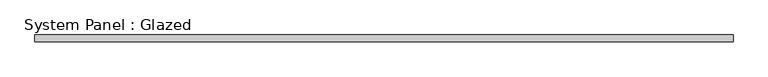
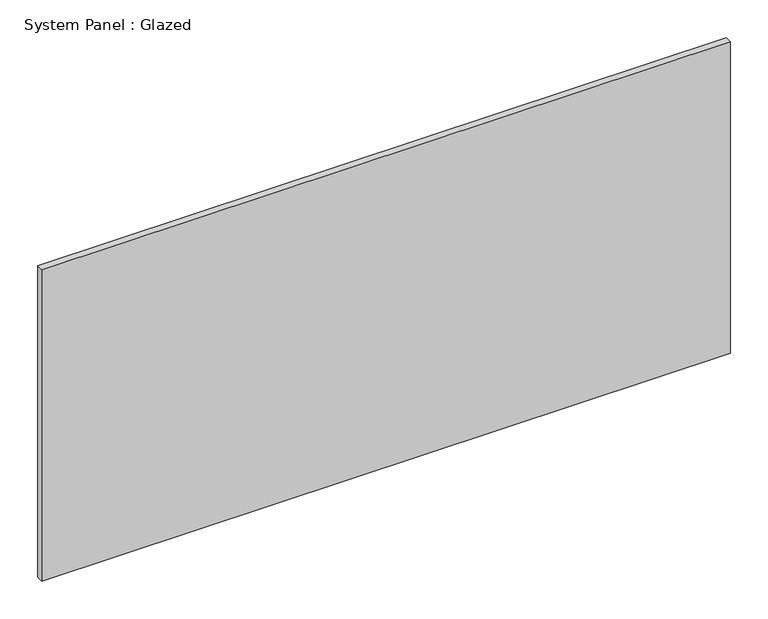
"""IFC4 building model written with IfcOpenShell, lengths in millimetres: plate geometry, System Panel : Glazed."""

from ifc_helpers import new_model, si_unit, origin, origin_with_axes, place, context, project, spatial, polyline, outline, extrude, source, transform, mapped, element, save


def system_panel_glazed_4516bcf1(model_context):
    return source(origin(), model_context, "Body", "SweptSolid", [
        extrude(outline(polyline([(526.2142184, -5.0), (-526.2142184, -5.0), (-526.2142184, 5.0), (526.2142184, 5.0), (526.2142184, -5.0)])), origin_with_axes(), (0.0, 0.0, 1.0), 503.3333333),
    ])


if __name__ == "__main__":
    model = new_model("IFC4")
    model_context = context("Model", 3, world=origin())
    ifc_project = project(units=[si_unit("LENGTHUNIT", "METRE", prefix="MILLI")], contexts=[model_context])
    site = spatial("IfcSite", under=ifc_project)
    building = spatial("IfcBuilding", under=site)
    placement = place(None, origin())
    system_panel_glazed_shape = system_panel_glazed_4516bcf1(model_context)
    element("IfcPlate", 1, ObjectType="System Panel : Glazed", at=placement, inside=building, context=model_context, shape_type="MappedRepresentation", body=[
        mapped(system_panel_glazed_shape, transform((0.0, 0.0, 0.0), x_axis=(1.0, 0.0, 0.0), y_axis=(0.0, 1.0, 0.0), z_axis=(0.0, 0.0, 1.0))),
    ])
    save(model, "model.ifc")
